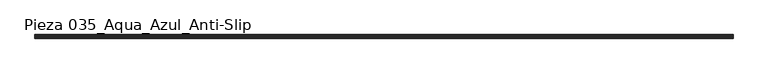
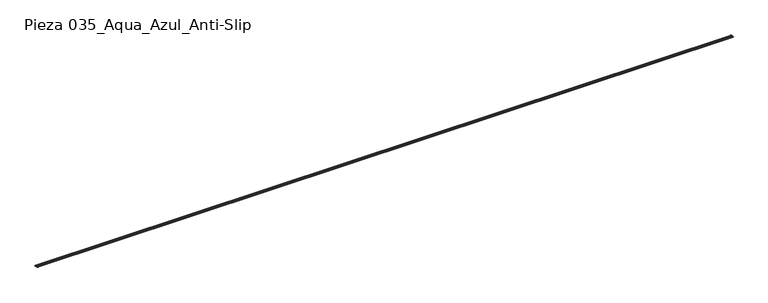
"""IFC4 building model written with IfcOpenShell, lengths in millimetres: slab geometry, ROSA GRES_035 : Pieza 035_Aqua_Azul_Anti-Slip."""

from ifc_helpers import new_model, si_unit, point, frame, frame_2d, origin, place, context, project, spatial, polyline, circle_curve, trimmed, segment, composite_curve, outline, extrude, source, transform, mapped, element, save


def pieza_035_aqua_azul_anti_slip_982134b4(model_context):
    return source(origin(), model_context, "Body", "SweptSolid", [
        extrude(outline(composite_curve([segment(polyline([(-511.1821026, 191.3274907), (-511.1821026, 215.3274907), (-618.1821026, 215.3274907), (-618.1821026, 227.2926815), (-613.6860009, 227.2926815)]), True, "CONTINUOUS"), segment(trimmed(circle_curve(frame_2d((-609.8807503, 231.7505669)), 5.8611155), [point((-613.6860009, 227.2926815))], [point((-605.7277929, 227.6146729))], True, "CARTESIAN"), True, "CONTINUOUS"), segment(trimmed(circle_curve(frame_2d((-601.5775039, 231.7532445)), 5.8611155), [point((-605.7277929, 227.6146729))], [point((-597.4245465, 227.6173505))], True, "CARTESIAN"), True, "CONTINUOUS"), segment(trimmed(circle_curve(frame_2d((-593.2742574, 231.7559221)), 5.8611155), [point((-597.4245465, 227.6173505))], [point((-589.1213, 227.6200281))], True, "CARTESIAN"), True, "CONTINUOUS"), segment(trimmed(circle_curve(frame_2d((-584.9710109, 231.7585998)), 5.8611155), [point((-589.1213, 227.6200281))], [point((-580.8180535, 227.6227058))], True, "CARTESIAN"), True, "CONTINUOUS"), segment(trimmed(circle_curve(frame_2d((-576.6677645, 231.7612774)), 5.8611155), [point((-580.8180535, 227.6227058))], [point((-572.5148071, 227.6253834))], True, "CARTESIAN"), True, "CONTINUOUS"), segment(trimmed(circle_curve(frame_2d((-568.364518, 231.763955)), 5.8611155), [point((-572.5148071, 227.6253834))], [point((-564.2115606, 227.628061))], True, "CARTESIAN"), True, "CONTINUOUS"), segment(trimmed(circle_curve(frame_2d((-560.0612716, 231.7666327)), 5.8611155), [point((-564.2115606, 227.628061))], [point((-555.9083142, 227.6307387))], True, "CARTESIAN"), True, "CONTINUOUS"), segment(trimmed(circle_curve(frame_2d((-551.7580251, 231.7693103)), 5.8611155), [point((-555.9083142, 227.6307387))], [point((-547.6050677, 227.6334163))], True, "CARTESIAN"), True, "CONTINUOUS"), segment(trimmed(circle_curve(frame_2d((-543.4547786, 231.7719879)), 5.8611155), [point((-547.6050677, 227.6334163))], [point((-539.3018212, 227.6360939))], True, "CARTESIAN"), True, "CONTINUOUS"), segment(trimmed(circle_curve(frame_2d((-535.1515322, 231.7746656)), 5.8611155), [point((-539.3018212, 227.6360939))], [point((-530.9985748, 227.6387716))], True, "CARTESIAN"), True, "CONTINUOUS"), segment(trimmed(circle_curve(frame_2d((-526.8482857, 231.7773432)), 5.8611155), [point((-530.9985748, 227.6387716))], [point((-522.6953283, 227.6414492))], True, "CARTESIAN"), True, "CONTINUOUS"), segment(trimmed(circle_curve(frame_2d((-518.5450393, 231.7800208)), 5.8611155), [point((-522.6953283, 227.6414492))], [point((-514.3920818, 227.6441268))], True, "CARTESIAN"), True, "CONTINUOUS"), segment(trimmed(circle_curve(frame_2d((-510.2417928, 231.7826985)), 5.8611155), [point((-514.3920818, 227.6441268))], [point((-506.4334076, 227.3274907))], True, "CARTESIAN"), True, "CONTINUOUS"), segment(polyline([(-506.4334076, 227.3274907), (-499.1821026, 227.3274907), (-499.1821026, 202.3274907), (-484.1821026, 202.3274907), (-484.1821026, 191.3274907), (-511.1821026, 191.3274907)]), True, "CONTINUOUS")], self_intersect=False)), frame((0.0, 0.0, 0.0), z_axis=(1.0, 0.0, 0.0), x_axis=(0.0, 1.0, 0.0)), (0.0, 0.0, 1.0), 25654.2086912),
    ])


if __name__ == "__main__":
    model = new_model("IFC4")
    model_context = context("Model", 3, world=origin())
    ifc_project = project(units=[si_unit("LENGTHUNIT", "METRE", prefix="MILLI")], contexts=[model_context])
    site = spatial("IfcSite", under=ifc_project)
    building = spatial("IfcBuilding", under=site)
    placement = place(None, origin())
    pieza_035_aqua_azul_anti_slip_shape = pieza_035_aqua_azul_anti_slip_982134b4(model_context)
    element("IfcSlab", 1, ObjectType="ROSA GRES_035 : Pieza 035_Aqua_Azul_Anti-Slip", at=placement, inside=building, context=model_context, shape_type="MappedRepresentation", body=[
        mapped(pieza_035_aqua_azul_anti_slip_shape, transform((0.0, 0.0, 0.0), x_axis=(1.0, 0.0, 0.0), y_axis=(0.0, 1.0, 0.0), z_axis=(0.0, 0.0, 1.0))),
    ])
    save(model, "model.ifc")
